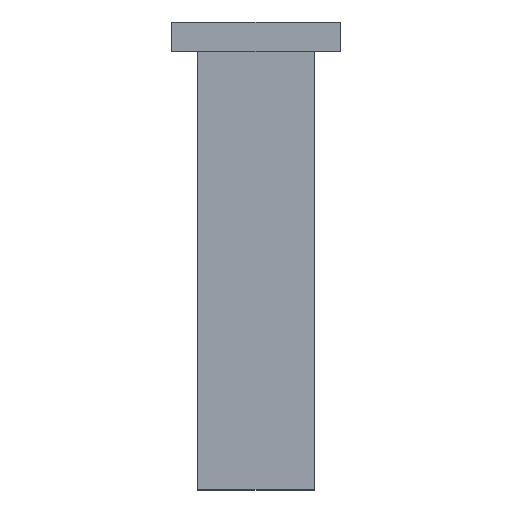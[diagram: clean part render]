
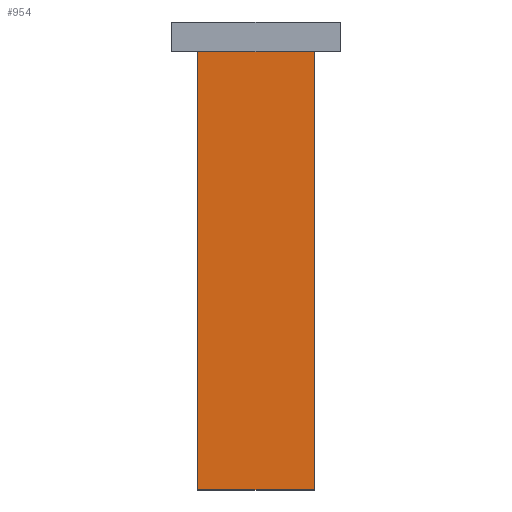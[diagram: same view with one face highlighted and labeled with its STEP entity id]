
A CAD part, top view. The second image highlights one B-rep face of the part: STEP entity #954.
In plain terms, the highlighted planar face has unit normal (0, 0, 1).
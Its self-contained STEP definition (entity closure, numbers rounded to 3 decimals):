
#72 = PLANE('',#73);
#73 = AXIS2_PLACEMENT_3D('',#74,#75,#76);
#74 = CARTESIAN_POINT('',(144.55,159.5,-104.098));
#75 = DIRECTION('',(0.,1.,0.));
#76 = DIRECTION('',(0.,0.,-1.));
#443 = VERTEX_POINT('',#444);
#444 = CARTESIAN_POINT('',(140.05,159.5,-151.098));
#458 = PLANE('',#459);
#459 = AXIS2_PLACEMENT_3D('',#460,#461,#462);
#460 = CARTESIAN_POINT('',(140.05,87.,-151.098));
#461 = DIRECTION('',(-1.,0.,0.));
#462 = DIRECTION('',(0.,1.,0.));
#470 = EDGE_CURVE('',#443,#471,#473,.T.);
#471 = VERTEX_POINT('',#472);
#472 = CARTESIAN_POINT('',(120.05,159.5,-151.098));
#473 = SURFACE_CURVE('',#474,(#478,#485),.PCURVE_S1.);
#474 = LINE('',#475,#476);
#475 = CARTESIAN_POINT('',(140.05,159.5,-151.098));
#476 = VECTOR('',#477,1.);
#477 = DIRECTION('',(-1.,0.,0.));
#478 = PCURVE('',#72,#479);
#479 = DEFINITIONAL_REPRESENTATION('',(#480),#484);
#480 = LINE('',#481,#482);
#481 = CARTESIAN_POINT('',(47.,4.5));
#482 = VECTOR('',#483,1.);
#483 = DIRECTION('',(0.,1.));
#484 = ( GEOMETRIC_REPRESENTATION_CONTEXT(2) 
PARAMETRIC_REPRESENTATION_CONTEXT() REPRESENTATION_CONTEXT('2D SPACE',''
  ) );
#485 = PCURVE('',#486,#491);
#486 = PLANE('',#487);
#487 = AXIS2_PLACEMENT_3D('',#488,#489,#490);
#488 = CARTESIAN_POINT('',(140.05,87.,-151.098));
#489 = DIRECTION('',(0.,0.,-1.));
#490 = DIRECTION('',(0.,1.,0.));
#491 = DEFINITIONAL_REPRESENTATION('',(#492),#496);
#492 = LINE('',#493,#494);
#493 = CARTESIAN_POINT('',(72.5,0.));
#494 = VECTOR('',#495,1.);
#495 = DIRECTION('',(0.,-1.));
#496 = ( GEOMETRIC_REPRESENTATION_CONTEXT(2) 
PARAMETRIC_REPRESENTATION_CONTEXT() REPRESENTATION_CONTEXT('2D SPACE',''
  ) );
#514 = PLANE('',#515);
#515 = AXIS2_PLACEMENT_3D('',#516,#517,#518);
#516 = CARTESIAN_POINT('',(120.05,87.,-151.098));
#517 = DIRECTION('',(-1.,0.,0.));
#518 = DIRECTION('',(0.,1.,0.));
#906 = VERTEX_POINT('',#907);
#907 = CARTESIAN_POINT('',(120.05,84.,-151.098));
#921 = PLANE('',#922);
#922 = AXIS2_PLACEMENT_3D('',#923,#924,#925);
#923 = CARTESIAN_POINT('',(140.05,84.,-151.098));
#924 = DIRECTION('',(0.,1.,0.));
#925 = DIRECTION('',(0.,0.,-1.));
#933 = EDGE_CURVE('',#906,#471,#934,.T.);
#934 = SURFACE_CURVE('',#935,(#939,#946),.PCURVE_S1.);
#935 = LINE('',#936,#937);
#936 = CARTESIAN_POINT('',(120.05,84.,-151.098));
#937 = VECTOR('',#938,1.);
#938 = DIRECTION('',(0.,1.,0.));
#939 = PCURVE('',#514,#940);
#940 = DEFINITIONAL_REPRESENTATION('',(#941),#945);
#941 = LINE('',#942,#943);
#942 = CARTESIAN_POINT('',(-3.,0.));
#943 = VECTOR('',#944,1.);
#944 = DIRECTION('',(1.,0.));
#945 = ( GEOMETRIC_REPRESENTATION_CONTEXT(2) 
PARAMETRIC_REPRESENTATION_CONTEXT() REPRESENTATION_CONTEXT('2D SPACE',''
  ) );
#946 = PCURVE('',#486,#947);
#947 = DEFINITIONAL_REPRESENTATION('',(#948),#952);
#948 = LINE('',#949,#950);
#949 = CARTESIAN_POINT('',(-3.,-20.));
#950 = VECTOR('',#951,1.);
#951 = DIRECTION('',(1.,0.));
#952 = ( GEOMETRIC_REPRESENTATION_CONTEXT(2) 
PARAMETRIC_REPRESENTATION_CONTEXT() REPRESENTATION_CONTEXT('2D SPACE',''
  ) );
#954 = ADVANCED_FACE('',(#955),#486,.F.);
#955 = FACE_BOUND('',#956,.F.);
#956 = EDGE_LOOP('',(#957,#980,#1001,#1002));
#957 = ORIENTED_EDGE('',*,*,#958,.F.);
#958 = EDGE_CURVE('',#959,#443,#961,.T.);
#959 = VERTEX_POINT('',#960);
#960 = CARTESIAN_POINT('',(140.05,84.,-151.098));
#961 = SURFACE_CURVE('',#962,(#966,#973),.PCURVE_S1.);
#962 = LINE('',#963,#964);
#963 = CARTESIAN_POINT('',(140.05,84.,-151.098));
#964 = VECTOR('',#965,1.);
#965 = DIRECTION('',(0.,1.,0.));
#966 = PCURVE('',#486,#967);
#967 = DEFINITIONAL_REPRESENTATION('',(#968),#972);
#968 = LINE('',#969,#970);
#969 = CARTESIAN_POINT('',(-3.,0.));
#970 = VECTOR('',#971,1.);
#971 = DIRECTION('',(1.,0.));
#972 = ( GEOMETRIC_REPRESENTATION_CONTEXT(2) 
PARAMETRIC_REPRESENTATION_CONTEXT() REPRESENTATION_CONTEXT('2D SPACE',''
  ) );
#973 = PCURVE('',#458,#974);
#974 = DEFINITIONAL_REPRESENTATION('',(#975),#979);
#975 = LINE('',#976,#977);
#976 = CARTESIAN_POINT('',(-3.,0.));
#977 = VECTOR('',#978,1.);
#978 = DIRECTION('',(1.,0.));
#979 = ( GEOMETRIC_REPRESENTATION_CONTEXT(2) 
PARAMETRIC_REPRESENTATION_CONTEXT() REPRESENTATION_CONTEXT('2D SPACE',''
  ) );
#980 = ORIENTED_EDGE('',*,*,#981,.T.);
#981 = EDGE_CURVE('',#959,#906,#982,.T.);
#982 = SURFACE_CURVE('',#983,(#987,#994),.PCURVE_S1.);
#983 = LINE('',#984,#985);
#984 = CARTESIAN_POINT('',(140.05,84.,-151.098));
#985 = VECTOR('',#986,1.);
#986 = DIRECTION('',(-1.,0.,0.));
#987 = PCURVE('',#486,#988);
#988 = DEFINITIONAL_REPRESENTATION('',(#989),#993);
#989 = LINE('',#990,#991);
#990 = CARTESIAN_POINT('',(-3.,0.));
#991 = VECTOR('',#992,1.);
#992 = DIRECTION('',(0.,-1.));
#993 = ( GEOMETRIC_REPRESENTATION_CONTEXT(2) 
PARAMETRIC_REPRESENTATION_CONTEXT() REPRESENTATION_CONTEXT('2D SPACE',''
  ) );
#994 = PCURVE('',#921,#995);
#995 = DEFINITIONAL_REPRESENTATION('',(#996),#1000);
#996 = LINE('',#997,#998);
#997 = CARTESIAN_POINT('',(0.,0.));
#998 = VECTOR('',#999,1.);
#999 = DIRECTION('',(0.,1.));
#1000 = ( GEOMETRIC_REPRESENTATION_CONTEXT(2) 
PARAMETRIC_REPRESENTATION_CONTEXT() REPRESENTATION_CONTEXT('2D SPACE',''
  ) );
#1001 = ORIENTED_EDGE('',*,*,#933,.T.);
#1002 = ORIENTED_EDGE('',*,*,#470,.F.);
